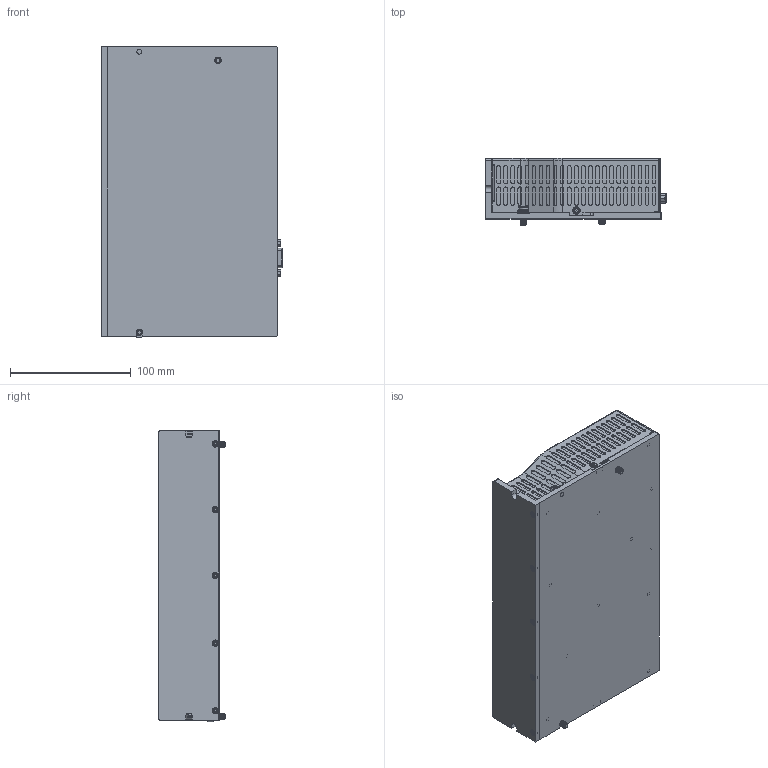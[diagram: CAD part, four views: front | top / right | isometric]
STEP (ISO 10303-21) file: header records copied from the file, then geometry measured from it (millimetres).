
FILE_DESCRIPTION((''),'2;1');
FILE_NAME('FD164S-LX_CX','2026-08-05T17:04:13',('RD0060'),(''),'CREO PARAMETRIC BY PTC INC, 2016510','CREO PARAMETRIC BY PTC INC, 2016510','');
FILE_SCHEMA(('CONFIG_CONTROL_DESIGN'));
Products named in the file (1): FD164S-LX_CX
Bounding box: 149.18 x 55.4 x 241.31 mm (x, y, z)
Volume: 1535519.4 mm3; surface area: 195251.1 mm2
Topology: 1 solids, 34 shells, 1797 faces, 4819 edges, 3140 vertices
Faces by surface type: plane 956, cylinder 637, cone 70, bspline 54, torus 48, extrusion 32
Entity records: 62152 total; most frequent: CARTESIAN_POINT 16268, ORIENTED_EDGE 9638, DIRECTION 9403, EDGE_CURVE 4819, AXIS2_PLACEMENT_3D 3206, VERTEX_POINT 3140, VECTOR 2991, LINE 2959
